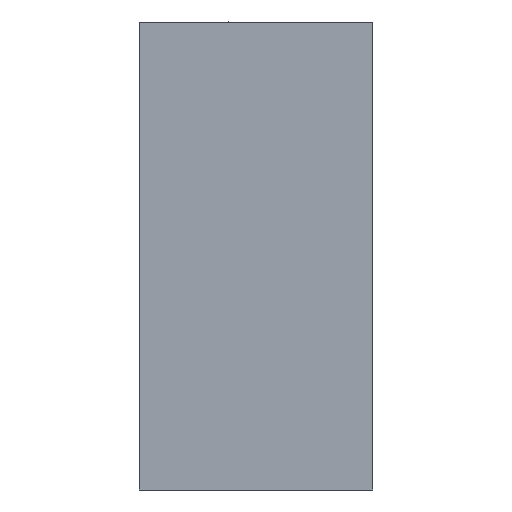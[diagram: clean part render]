
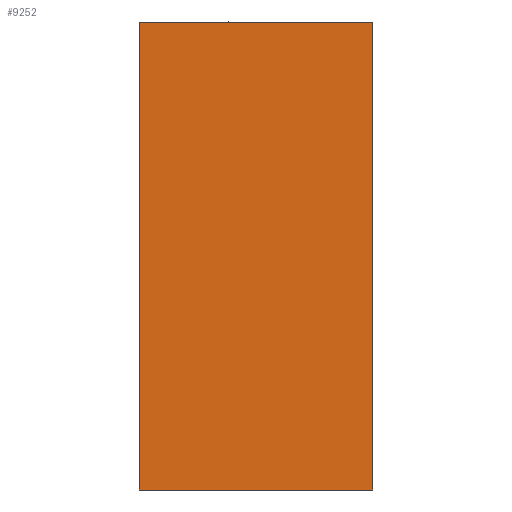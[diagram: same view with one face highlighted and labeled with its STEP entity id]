
A CAD part, left-side view. The second image highlights one B-rep face of the part: STEP entity #9252.
In plain terms, the highlighted planar face has unit normal (-1, 0, 0).
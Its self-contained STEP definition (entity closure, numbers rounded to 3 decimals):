
#319 = AXIS2_PLACEMENT_3D ( 'NONE', #9968, #9597, #9575 ) ;
#679 = VERTEX_POINT ( 'NONE', #3129 ) ;
#811 = CARTESIAN_POINT ( 'NONE',  ( 0., -25., 50. ) ) ;
#820 = VERTEX_POINT ( 'NONE', #3028 ) ;
#1009 = ORIENTED_EDGE ( 'NONE', *, *, #5616, .F. ) ;
#1842 = VECTOR ( 'NONE', #9359, 1000. ) ;
#2096 = DIRECTION ( 'NONE',  ( 0., 0., -1. ) ) ;
#2198 = CARTESIAN_POINT ( 'NONE',  ( 0., -25., 50. ) ) ;
#2328 = LINE ( 'NONE', #811, #1842 ) ;
#2453 = EDGE_CURVE ( 'NONE', #2748, #679, #8856, .T. ) ;
#2748 = VERTEX_POINT ( 'NONE', #4562 ) ;
#3028 = CARTESIAN_POINT ( 'NONE',  ( 0., 25., 50. ) ) ;
#3129 = CARTESIAN_POINT ( 'NONE',  ( 0., 25., -50. ) ) ;
#3279 = EDGE_LOOP ( 'NONE', ( #4346, #4260, #4402, #1009 ) ) ;
#3285 = EDGE_CURVE ( 'NONE', #6398, #2748, #9379, .T. ) ;
#3497 = CARTESIAN_POINT ( 'NONE',  ( 0., -25., -50. ) ) ;
#4260 = ORIENTED_EDGE ( 'NONE', *, *, #3285, .F. ) ;
#4346 = ORIENTED_EDGE ( 'NONE', *, *, #2453, .F. ) ;
#4402 = ORIENTED_EDGE ( 'NONE', *, *, #5134, .F. ) ;
#4562 = CARTESIAN_POINT ( 'NONE',  ( 0., -25., -50. ) ) ;
#5134 = EDGE_CURVE ( 'NONE', #820, #6398, #2328, .T. ) ;
#5616 = EDGE_CURVE ( 'NONE', #679, #820, #7637, .T. ) ;
#6398 = VERTEX_POINT ( 'NONE', #7976 ) ;
#7535 = VECTOR ( 'NONE', #8312, 1000. ) ;
#7637 = LINE ( 'NONE', #7838, #7535 ) ;
#7838 = CARTESIAN_POINT ( 'NONE',  ( 0., 25., 50. ) ) ;
#7927 = VECTOR ( 'NONE', #8727, 1000. ) ;
#7976 = CARTESIAN_POINT ( 'NONE',  ( 0., -25., 50. ) ) ;
#8312 = DIRECTION ( 'NONE',  ( 0., 0., 1. ) ) ;
#8727 = DIRECTION ( 'NONE',  ( 0., 1., 0. ) ) ;
#8856 = LINE ( 'NONE', #3497, #7927 ) ;
#9188 = VECTOR ( 'NONE', #2096, 1000. ) ;
#9223 = FACE_OUTER_BOUND ( 'NONE', #3279, .T. ) ;
#9252 = ADVANCED_FACE ( 'NONE', ( #9223 ), #10011, .T. ) ;
#9359 = DIRECTION ( 'NONE',  ( 0., -1., 0. ) ) ;
#9379 = LINE ( 'NONE', #2198, #9188 ) ;
#9575 = DIRECTION ( 'NONE',  ( 0., 0., 1. ) ) ;
#9597 = DIRECTION ( 'NONE',  ( -1., 0., 0. ) ) ;
#9968 = CARTESIAN_POINT ( 'NONE',  ( 0., 25., -50. ) ) ;
#10011 = PLANE ( 'NONE',  #319 ) ;
